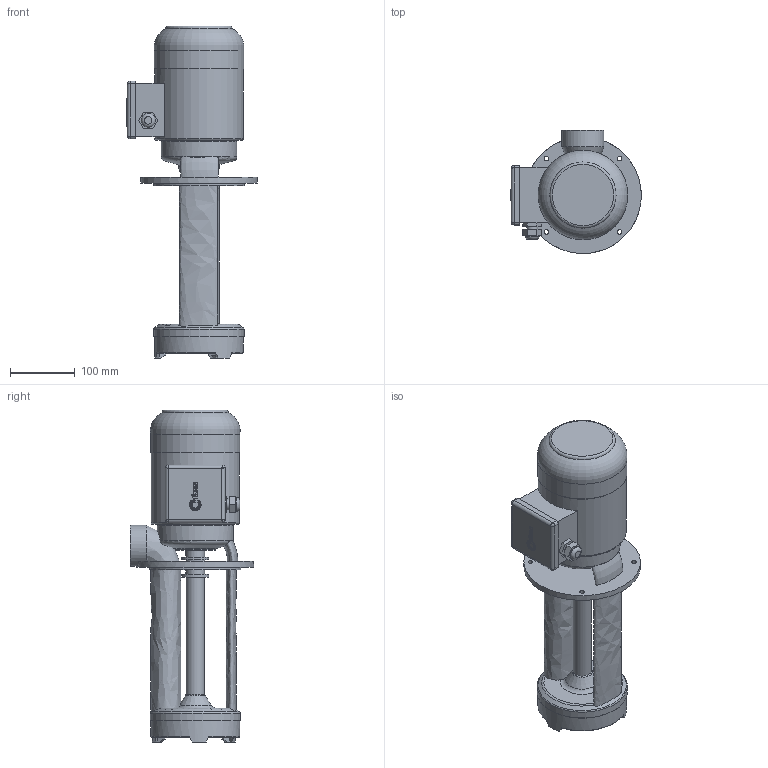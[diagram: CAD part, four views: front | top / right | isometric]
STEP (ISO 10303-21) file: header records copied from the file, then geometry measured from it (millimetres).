
FILE_DESCRIPTION(/* description */ ('Unknown'),/* implementation_level */ '2;1');
FILE_NAME(/* name */ 'EP 150-270',/* time_stamp */ '2023-03-02T14:56:07+03:00',/* author */ ('Unknown'),/* organization */ ('Unknown'),/* preprocessor_version */ 'ST-DEVELOPER v16.7',/* originating_system */ 'DEX',/* authorisation */ $);
FILE_SCHEMA (('AUTOMOTIVE_DESIGN {1 0 10303 214 3 1 1}'));
Length unit declared in the file: millimetre
Products named in the file (1): EP 150-270
Bounding box: 201.5 x 190 x 512.36 mm (x, y, z)
Volume: 5122104.3 mm3; surface area: 332861.4 mm2
Topology: 1 solids, 1 shells, 268 faces, 678 edges, 435 vertices
Faces by surface type: plane 91, bspline 81, cylinder 56, torus 26, cone 14
Full cylindrical faces by diameter (mm): 7 x4, 17 x1, 21.5 x1, 28 x1, 29 x3, 30 x1, 42 x2, 44 x1, 48 x1, 62 x1, 94 x1, 116.969 x1, 136.473 x1, 137 x1, 137.994 x1, 139 x1, 140 x1, 180 x1
Entity records: 11389 total; most frequent: CARTESIAN_POINT 5687, ORIENTED_EDGE 1212, DIRECTION 973, EDGE_CURVE 606, VERTEX_POINT 419, AXIS2_PLACEMENT_3D 372, EDGE_LOOP 363, FACE_BOUND 363
